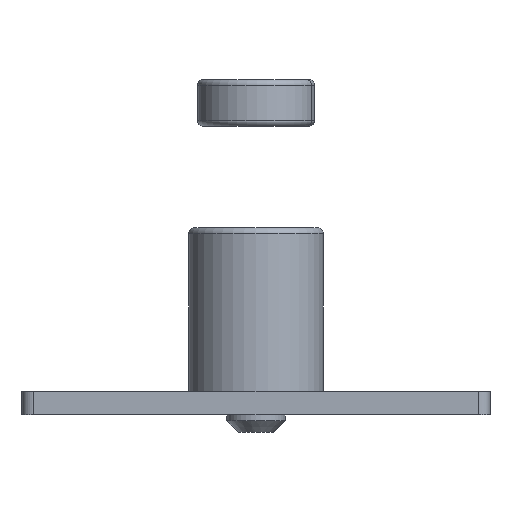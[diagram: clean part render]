
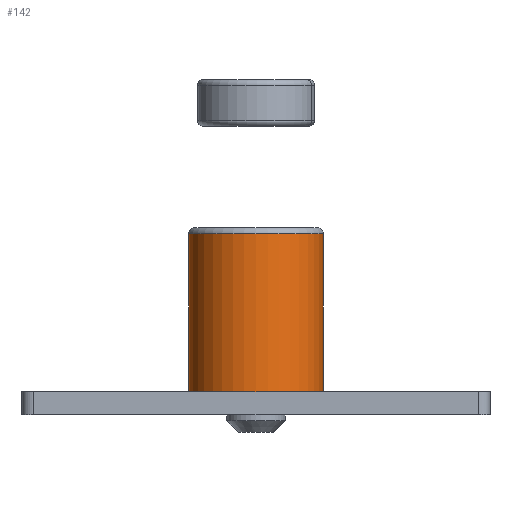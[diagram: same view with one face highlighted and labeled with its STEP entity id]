
A CAD part, front view. The second image highlights one B-rep face of the part: STEP entity #142.
In plain terms, the highlighted cylindrical face has radius 5.75 mm (diameter 11.5 mm), a partial arc.
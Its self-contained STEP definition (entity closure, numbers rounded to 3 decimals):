
#43 = CARTESIAN_POINT ( 'NONE',  ( 0., 20.103, 14.5 ) ) ;
#61 = CARTESIAN_POINT ( 'NONE',  ( 0., 20.103, 1. ) ) ;
#68 = CARTESIAN_POINT ( 'NONE',  ( -5.75, 20.103, 14.5 ) ) ;
#96 = FACE_OUTER_BOUND ( 'NONE', #570, .T. ) ;
#134 = CYLINDRICAL_SURFACE ( 'NONE', #1353, 5.75 ) ;
#142 = ADVANCED_FACE ( 'NONE', ( #96 ), #134, .T. ) ;
#149 = EDGE_CURVE ( 'NONE', #157, #928, #688, .T. ) ;
#157 = VERTEX_POINT ( 'NONE', #714 ) ;
#238 = ORIENTED_EDGE ( 'NONE', *, *, #389, .T. ) ;
#271 = DIRECTION ( 'NONE',  ( 0., 0., -1. ) ) ;
#334 = VECTOR ( 'NONE', #807, 1000. ) ;
#389 = EDGE_CURVE ( 'NONE', #1051, #1015, #527, .T. ) ;
#413 = CARTESIAN_POINT ( 'NONE',  ( 5.75, 20.103, 15. ) ) ;
#477 = ORIENTED_EDGE ( 'NONE', *, *, #885, .T. ) ;
#501 = CARTESIAN_POINT ( 'NONE',  ( 5.75, 20.103, 1. ) ) ;
#527 = CIRCLE ( 'NONE', #811, 5.75 ) ;
#541 = ORIENTED_EDGE ( 'NONE', *, *, #149, .T. ) ;
#548 = LINE ( 'NONE', #413, #924 ) ;
#570 = EDGE_LOOP ( 'NONE', ( #1320, #541, #477, #238 ) ) ;
#608 = DIRECTION ( 'NONE',  ( -1., 0., 0. ) ) ;
#688 = CIRCLE ( 'NONE', #1281, 5.75 ) ;
#714 = CARTESIAN_POINT ( 'NONE',  ( 5.75, 20.103, 14.5 ) ) ;
#752 = DIRECTION ( 'NONE',  ( 0., 0., -1. ) ) ;
#807 = DIRECTION ( 'NONE',  ( 0., 0., -1. ) ) ;
#811 = AXIS2_PLACEMENT_3D ( 'NONE', #61, #1287, #1136 ) ;
#885 = EDGE_CURVE ( 'NONE', #928, #1051, #1096, .T. ) ;
#924 = VECTOR ( 'NONE', #271, 1000. ) ;
#928 = VERTEX_POINT ( 'NONE', #68 ) ;
#949 = CARTESIAN_POINT ( 'NONE',  ( -5.75, 20.103, 15. ) ) ;
#994 = CARTESIAN_POINT ( 'NONE',  ( -5.75, 20.103, 1. ) ) ;
#1015 = VERTEX_POINT ( 'NONE', #501 ) ;
#1051 = VERTEX_POINT ( 'NONE', #994 ) ;
#1096 = LINE ( 'NONE', #949, #334 ) ;
#1136 = DIRECTION ( 'NONE',  ( 1., 0., 0. ) ) ;
#1148 = DIRECTION ( 'NONE',  ( 1., 0., 0. ) ) ;
#1184 = CARTESIAN_POINT ( 'NONE',  ( 0., 20.103, 15. ) ) ;
#1281 = AXIS2_PLACEMENT_3D ( 'NONE', #43, #1302, #1148 ) ;
#1287 = DIRECTION ( 'NONE',  ( 0., 0., 1. ) ) ;
#1295 = EDGE_CURVE ( 'NONE', #157, #1015, #548, .T. ) ;
#1302 = DIRECTION ( 'NONE',  ( 0., 0., -1. ) ) ;
#1320 = ORIENTED_EDGE ( 'NONE', *, *, #1295, .F. ) ;
#1353 = AXIS2_PLACEMENT_3D ( 'NONE', #1184, #752, #608 ) ;
